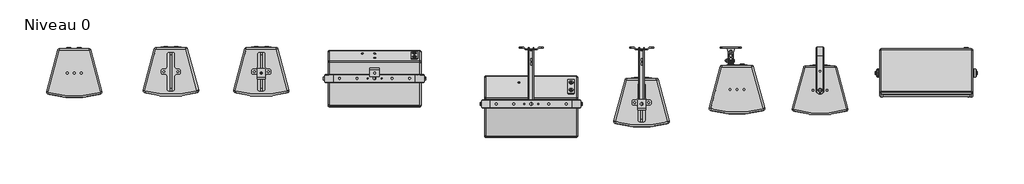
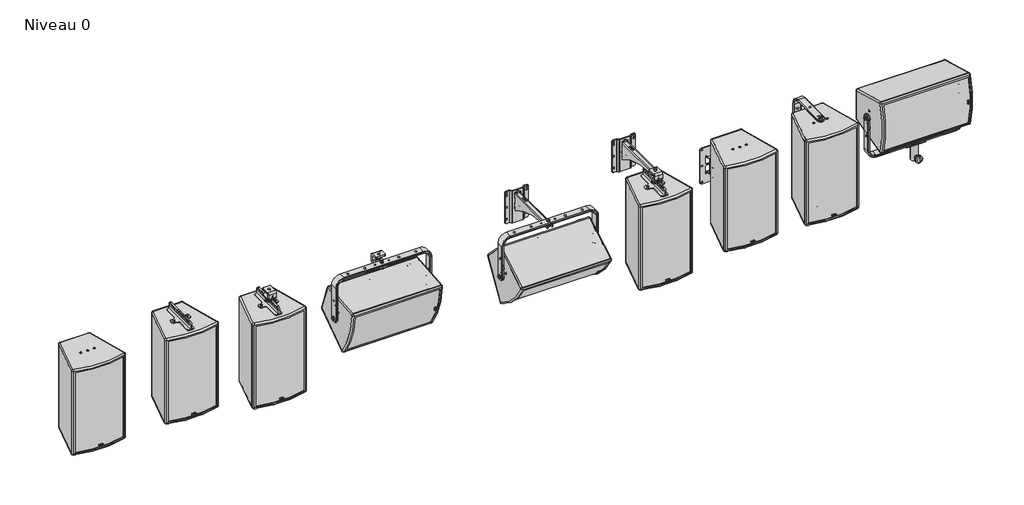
# One storey, incomplete: 9 proxies.
"""IFC4 building model written with IfcOpenShell, lengths in millimetres."""

from ifc_helpers import new_model, si_unit, origin, place, context, project, spatial, transform, mapped, element, save
from components import generic_models_9b18be5a, generic_models_acdf5499, generic_models_ff4268a7, generic_models_154d06d4, generic_models_dbeaffa2, generic_models_8c389aa7, generic_models_1c3ee055, generic_models_aa8a75bb, generic_models_d4df1c55, generic_models_befa25e3, generic_models_975c6ad0, generic_models_40b17b7d, eps10_vertical_34d72fa2, pos_6_8d53869b, pos_6_8bae4bcd, pos_6_9f17bd98, pos_6_3f01e1d3, pos6_98ff1bd9, pos6_e7103955

model = new_model("IFC4")

# Units and contexts
model_context = context("Model", 3, world=origin())
ifc_project = project(units=[si_unit("LENGTHUNIT", "METRE", prefix="MILLI")], contexts=[model_context])

# Site, building, storey
site = spatial("IfcSite", under=ifc_project)
building = spatial("IfcBuilding", under=site)
storey = spatial("IfcBuildingStorey", under=building, Name="Niveau 0", Elevation=0.0)

# Proxies
placement = place(None, origin())
generic_models_shape = generic_models_9b18be5a(model_context)
generic_models_2_shape = generic_models_acdf5499(model_context)
element("IfcBuildingElementProxy", 1, Name="ePS10-HBRK535-CHM : ePS10-HBRK535-CHM", ObjectType="ePS10-HBRK535-CHM : ePS10-HBRK535-CHM", at=placement, inside=storey, context=model_context, shape_type="MappedRepresentation", body=[
    mapped(generic_models_shape, transform((5793.3016096, 2814.1476274, 0.0), x_axis=(1.0, 0.0, 0.0), y_axis=(0.0, 1.0, 0.0), z_axis=(0.0, 0.0, 1.0))),
    mapped(generic_models_2_shape, transform((5793.3016096, 2814.1476274, 0.0), x_axis=(1.0, 0.0, 0.0), y_axis=(0.0, 1.0, 0.0), z_axis=(0.0, 0.0, 1.0))),
])
generic_models_3_shape = generic_models_ff4268a7(model_context)
generic_models_4_shape = generic_models_154d06d4(model_context)
element("IfcBuildingElementProxy", 2, Name="ePS10-HBRK535-SHM : ePS10-HBRK535-SHM", ObjectType="ePS10-HBRK535-SHM : ePS10-HBRK535-SHM", at=placement, inside=storey, context=model_context, shape_type="MappedRepresentation", body=[
    mapped(generic_models_3_shape, transform((8944.4906284, 2814.1476274, -404.5012591), x_axis=(1.0, 0.0, 0.0), y_axis=(0.0, 1.0, 0.0), z_axis=(0.0, 0.0, 1.0))),
    mapped(generic_models_4_shape, transform((8944.4906284, 2814.1476274, -404.5012591), x_axis=(1.0, 0.0, 0.0), y_axis=(0.0, 1.0, 0.0), z_axis=(0.0, 0.0, 1.0))),
])
generic_models_5_shape = generic_models_dbeaffa2(model_context)
generic_models_6_shape = generic_models_8c389aa7(model_context)
element("IfcBuildingElementProxy", 3, Name="ePS10-HBRK535-WVM : ePS10-HBRK535-WVM", ObjectType="ePS10-HBRK535-WVM : ePS10-HBRK535-WVM", at=placement, inside=storey, context=model_context, shape_type="MappedRepresentation", body=[
    mapped(generic_models_5_shape, transform((8337.0676221, 2961.9161536, -265.5), x_axis=(1.0, 0.0, 0.0), y_axis=(0.0, 1.0, 0.0), z_axis=(0.0, 0.0, 1.0))),
    mapped(generic_models_6_shape, transform((8337.0676221, 2961.9161536, -265.5), x_axis=(1.0, 0.0, 0.0), y_axis=(0.0, 1.0, 0.0), z_axis=(0.0, 0.0, 1.0))),
])
generic_models_7_shape = generic_models_1c3ee055(model_context)
generic_models_8_shape = generic_models_aa8a75bb(model_context)
generic_models_9_shape = generic_models_d4df1c55(model_context)
element("IfcBuildingElementProxy", 4, Name="ePS10-WM330-HBRK535-WHM : ePS10-WM330-HBRK535-WHM", ObjectType="ePS10-WM330-HBRK535-WHM : ePS10-WM330-HBRK535-WHM", at=placement, inside=storey, context=model_context, shape_type="MappedRepresentation", body=[
    mapped(generic_models_7_shape, transform((6687.680536, 2961.9161536, 0.0), x_axis=(1.0, 0.0, 0.0), y_axis=(0.0, 1.0, 0.0), z_axis=(0.0, 0.0, 1.0))),
    mapped(generic_models_8_shape, transform((6687.680536, 2961.9161536, 0.0), x_axis=(1.0, 0.0, 0.0), y_axis=(0.0, 1.0, 0.0), z_axis=(0.0, 0.0, 1.0))),
    mapped(generic_models_9_shape, transform((6687.680536, 2961.9161536, 0.0), x_axis=(1.0, 0.0, 0.0), y_axis=(0.0, 1.0, 0.0), z_axis=(0.0, 0.0, 1.0))),
])
generic_models_10_shape = generic_models_befa25e3(model_context)
generic_models_11_shape = generic_models_975c6ad0(model_context)
generic_models_12_shape = generic_models_40b17b7d(model_context)
element("IfcBuildingElementProxy", 5, Name="ePS10-WM02-WVM : ePS10-WM02-WVM", ObjectType="ePS10-WM02-WVM : ePS10-WM02-WVM", at=placement, inside=storey, context=model_context, shape_type="MappedRepresentation", body=[
    mapped(generic_models_10_shape, transform((7827.7667938, 2961.9161536, -233.96604), x_axis=(1.0, 0.0, 0.0), y_axis=(0.0, 1.0, 0.0), z_axis=(0.0, 0.0, 1.0))),
    mapped(generic_models_11_shape, transform((7827.7667938, 2961.9161536, -233.96604), x_axis=(1.0, 0.0, 0.0), y_axis=(0.0, 1.0, 0.0), z_axis=(0.0, 0.0, 1.0))),
    mapped(generic_models_12_shape, transform((7827.7667938, 2961.9161536, -233.96604), x_axis=(1.0, 0.0, 0.0), y_axis=(0.0, 1.0, 0.0), z_axis=(0.0, 0.0, 1.0))),
])
eps10_vertical_shape = eps10_vertical_34d72fa2(model_context)
element("IfcBuildingElementProxy", 6, Name="ePS10 : Vertical", ObjectType="ePS10 : Vertical", at=placement, inside=storey, context=model_context, shape_type="MappedRepresentation", body=[
    mapped(eps10_vertical_shape, transform((4078.4094903, 2814.1476274, -265.5), x_axis=(1.0, 0.0, 0.0), y_axis=(0.0, 1.0, 0.0), z_axis=(0.0, 0.0, 1.0))),
])
pos_6_shape = pos_6_8d53869b(model_context)
element("IfcBuildingElementProxy", 7, Name="ePS10-BUMP-TRUSSVM : pos 6", ObjectType="ePS10-BUMP-TRUSSVM : pos 6", at=placement, inside=storey, context=model_context, shape_type="MappedRepresentation", body=[
    mapped(pos_6_shape, transform((4630.1585569, 2814.1476274, 29.0), x_axis=(1.0, 0.0, 0.0), y_axis=(0.0, 1.0, 0.0), z_axis=(0.0, 0.0, 1.0))),
])
pos_6_2_shape = pos_6_8bae4bcd(model_context)
pos_6_3_shape = pos_6_9f17bd98(model_context)
pos_6_4_shape = pos_6_3f01e1d3(model_context)
element("IfcBuildingElementProxy", 8, Name="ePS10-WM330-BUMP-WVM : pos 6", ObjectType="ePS10-WM330-BUMP-WVM : pos 6", at=placement, inside=storey, context=model_context, shape_type="MappedRepresentation", body=[
    mapped(pos_6_2_shape, transform((7318.4659655, 2961.9161536, 97.9639301), x_axis=(1.0, 0.0, 0.0), y_axis=(0.0, 1.0, 0.0), z_axis=(0.0, 0.0, 1.0))),
    mapped(pos_6_3_shape, transform((7318.4659655, 2961.9161536, 97.9639301), x_axis=(1.0, 0.0, 0.0), y_axis=(0.0, 1.0, 0.0), z_axis=(0.0, 0.0, 1.0))),
    mapped(pos_6_4_shape, transform((7318.4659655, 2961.9161536, 97.9639301), x_axis=(1.0, 0.0, 0.0), y_axis=(0.0, 1.0, 0.0), z_axis=(0.0, 0.0, 1.0))),
])
pos6_shape = pos6_98ff1bd9(model_context)
pos6_2_shape = pos6_e7103955(model_context)
element("IfcBuildingElementProxy", 9, Name="ePS10-BUMP-CVM : pos6", ObjectType="ePS10-BUMP-CVM : pos6", at=placement, inside=storey, context=model_context, shape_type="MappedRepresentation", body=[
    mapped(pos6_shape, transform((5146.7777283, 2814.1476274, 0.0), x_axis=(1.0, 0.0, 0.0), y_axis=(0.0, 1.0, 0.0), z_axis=(0.0, 0.0, 1.0))),
    mapped(pos6_2_shape, transform((5146.7777283, 2814.1476274, 0.0), x_axis=(1.0, 0.0, 0.0), y_axis=(0.0, 1.0, 0.0), z_axis=(0.0, 0.0, 1.0))),
])

save(model, "model.ifc")
